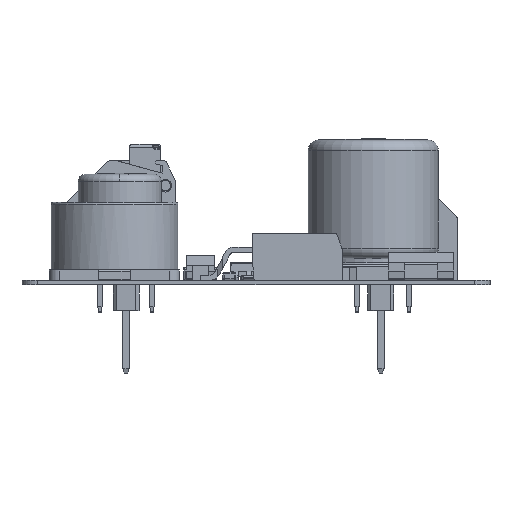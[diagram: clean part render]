
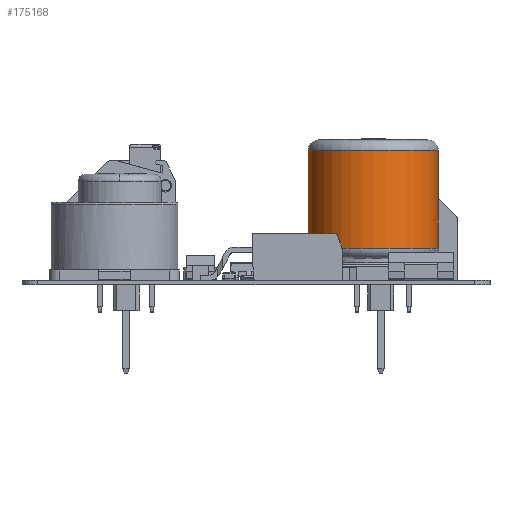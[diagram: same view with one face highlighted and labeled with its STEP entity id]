
A CAD part, front view. The second image highlights one B-rep face of the part: STEP entity #175168.
In plain terms, the highlighted cylindrical face has radius 6.25 mm (diameter 12.5 mm), a partial arc.
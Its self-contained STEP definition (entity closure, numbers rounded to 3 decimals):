
#1446 = AXIS2_PLACEMENT_3D ( 'NONE', #198104, #146670, #97202 ) ;
#14838 = DIRECTION ( 'NONE',  ( 0., 0., -1. ) ) ;
#22310 = LINE ( 'NONE', #74803, #140874 ) ;
#28561 = CARTESIAN_POINT ( 'NONE',  ( 33.782, -18.288, 12.5 ) ) ;
#29637 = CARTESIAN_POINT ( 'NONE',  ( 27.532, -18.288, 1.5 ) ) ;
#30953 = EDGE_CURVE ( 'NONE', #83074, #142028, #142829, .T. ) ;
#40401 = CARTESIAN_POINT ( 'NONE',  ( 40.032, -18.288, 12.5 ) ) ;
#43389 = ORIENTED_EDGE ( 'NONE', *, *, #93653, .F. ) ;
#49497 = ORIENTED_EDGE ( 'NONE', *, *, #124990, .T. ) ;
#61863 = CARTESIAN_POINT ( 'NONE',  ( 33.782, -18.288, 1.5 ) ) ;
#64550 = ORIENTED_EDGE ( 'NONE', *, *, #89402, .F. ) ;
#64627 = CYLINDRICAL_SURFACE ( 'NONE', #87485, 6.25 ) ;
#74803 = CARTESIAN_POINT ( 'NONE',  ( 40.032, -18.288, 1.5 ) ) ;
#82208 = FACE_OUTER_BOUND ( 'NONE', #191544, .T. ) ;
#83074 = VERTEX_POINT ( 'NONE', #141982 ) ;
#87485 = AXIS2_PLACEMENT_3D ( 'NONE', #61863, #128106, #202452 ) ;
#87959 = CIRCLE ( 'NONE', #1446, 6.25 ) ;
#89402 = EDGE_CURVE ( 'NONE', #152269, #174622, #22310, .T. ) ;
#93653 = EDGE_CURVE ( 'NONE', #174622, #142028, #87959, .T. ) ;
#97202 = DIRECTION ( 'NONE',  ( -1., 0., 0. ) ) ;
#111352 = ORIENTED_EDGE ( 'NONE', *, *, #30953, .T. ) ;
#124990 = EDGE_CURVE ( 'NONE', #152269, #83074, #216210, .T. ) ;
#128106 = DIRECTION ( 'NONE',  ( 0., 0., -1. ) ) ;
#129374 = DIRECTION ( 'NONE',  ( -1., 0., 0. ) ) ;
#131172 = AXIS2_PLACEMENT_3D ( 'NONE', #28561, #161115, #129374 ) ;
#140874 = VECTOR ( 'NONE', #175613, 1000. ) ;
#141982 = CARTESIAN_POINT ( 'NONE',  ( 27.532, -18.288, 12.5 ) ) ;
#142028 = VERTEX_POINT ( 'NONE', #163274 ) ;
#142829 = LINE ( 'NONE', #29637, #153414 ) ;
#145367 = CARTESIAN_POINT ( 'NONE',  ( 40.032, -18.288, 3.091 ) ) ;
#146670 = DIRECTION ( 'NONE',  ( 0., 0., -1. ) ) ;
#152269 = VERTEX_POINT ( 'NONE', #40401 ) ;
#153414 = VECTOR ( 'NONE', #14838, 1000. ) ;
#161115 = DIRECTION ( 'NONE',  ( 0., 0., -1. ) ) ;
#163274 = CARTESIAN_POINT ( 'NONE',  ( 27.532, -18.288, 3.091 ) ) ;
#174622 = VERTEX_POINT ( 'NONE', #145367 ) ;
#175168 = ADVANCED_FACE ( 'NONE', ( #82208 ), #64627, .T. ) ;
#175613 = DIRECTION ( 'NONE',  ( 0., 0., -1. ) ) ;
#191544 = EDGE_LOOP ( 'NONE', ( #64550, #49497, #111352, #43389 ) ) ;
#198104 = CARTESIAN_POINT ( 'NONE',  ( 33.782, -18.288, 3.091 ) ) ;
#202452 = DIRECTION ( 'NONE',  ( -1., 0., 0. ) ) ;
#216210 = CIRCLE ( 'NONE', #131172, 6.25 ) ;
